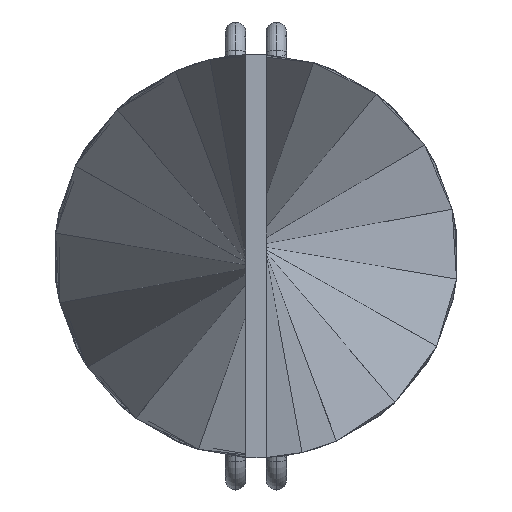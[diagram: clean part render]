
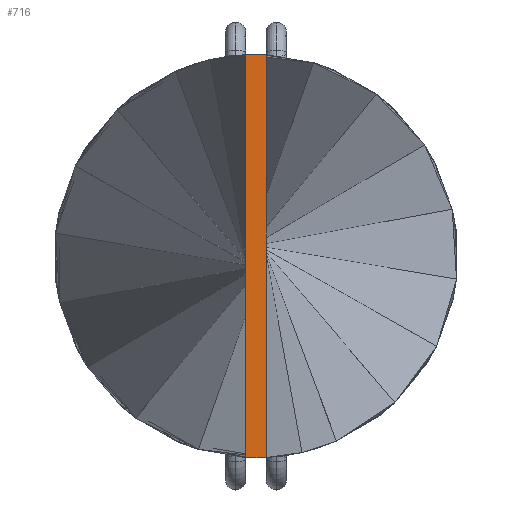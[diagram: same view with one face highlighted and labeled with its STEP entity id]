
A CAD part, left-side view. The second image highlights one B-rep face of the part: STEP entity #716.
In plain terms, the highlighted planar face has unit normal (-1, 0, 0).
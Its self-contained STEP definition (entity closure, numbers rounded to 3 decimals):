
#62 = CARTESIAN_POINT ( 'NONE',  ( -300., 0., 0. ) ) ;
#96 = FACE_OUTER_BOUND ( 'NONE', #3181, .T. ) ;
#280 = ORIENTED_EDGE ( 'NONE', *, *, #2334, .T. ) ;
#389 = VECTOR ( 'NONE', #768, 1000. ) ;
#439 = DIRECTION ( 'NONE',  ( -1., 0., 0. ) ) ;
#667 = EDGE_CURVE ( 'NONE', #1036, #1434, #3662, .T. ) ;
#683 = EDGE_CURVE ( 'NONE', #1298, #1036, #2814, .T. ) ;
#692 = CARTESIAN_POINT ( 'NONE',  ( -300., 0.5, 9.9 ) ) ;
#716 = ADVANCED_FACE ( 'NONE', ( #96 ), #733, .T. ) ;
#733 = PLANE ( 'NONE',  #3211 ) ;
#768 = DIRECTION ( 'NONE',  ( 0., 1., 0. ) ) ;
#943 = DIRECTION ( 'NONE',  ( 0., 0., -1. ) ) ;
#1036 = VERTEX_POINT ( 'NONE', #1755 ) ;
#1095 = VECTOR ( 'NONE', #943, 1000. ) ;
#1260 = VERTEX_POINT ( 'NONE', #3882 ) ;
#1298 = VERTEX_POINT ( 'NONE', #3816 ) ;
#1434 = VERTEX_POINT ( 'NONE', #4012 ) ;
#1714 = DIRECTION ( 'NONE',  ( 0., 0., 1. ) ) ;
#1755 = CARTESIAN_POINT ( 'NONE',  ( -300., 0.5, -9.9 ) ) ;
#1946 = CARTESIAN_POINT ( 'NONE',  ( -300., 0.5, -9.9 ) ) ;
#1958 = VECTOR ( 'NONE', #1714, 1000. ) ;
#2011 = CARTESIAN_POINT ( 'NONE',  ( -300., -0.5, 9.9 ) ) ;
#2042 = VECTOR ( 'NONE', #2666, 1000. ) ;
#2334 = EDGE_CURVE ( 'NONE', #1260, #1298, #2939, .T. ) ;
#2367 = EDGE_CURVE ( 'NONE', #1434, #1260, #3674, .T. ) ;
#2666 = DIRECTION ( 'NONE',  ( 0., -1., 0. ) ) ;
#2767 = ORIENTED_EDGE ( 'NONE', *, *, #2367, .T. ) ;
#2814 = LINE ( 'NONE', #692, #1095 ) ;
#2870 = ORIENTED_EDGE ( 'NONE', *, *, #683, .T. ) ;
#2939 = LINE ( 'NONE', #2011, #389 ) ;
#2963 = ORIENTED_EDGE ( 'NONE', *, *, #667, .T. ) ;
#3181 = EDGE_LOOP ( 'NONE', ( #280, #2870, #2963, #2767 ) ) ;
#3211 = AXIS2_PLACEMENT_3D ( 'NONE', #62, #439, #3585 ) ;
#3315 = CARTESIAN_POINT ( 'NONE',  ( -300., -0.5, -9.9 ) ) ;
#3585 = DIRECTION ( 'NONE',  ( 0., 0., 1. ) ) ;
#3662 = LINE ( 'NONE', #1946, #2042 ) ;
#3674 = LINE ( 'NONE', #3315, #1958 ) ;
#3816 = CARTESIAN_POINT ( 'NONE',  ( -300., 0.5, 9.9 ) ) ;
#3882 = CARTESIAN_POINT ( 'NONE',  ( -300., -0.5, 9.9 ) ) ;
#4012 = CARTESIAN_POINT ( 'NONE',  ( -300., -0.5, -9.9 ) ) ;
